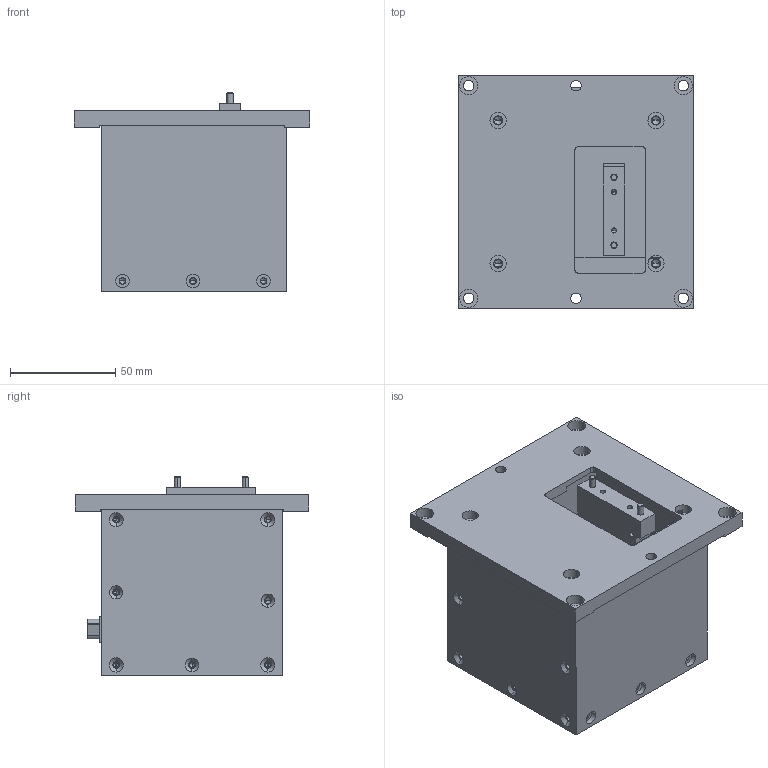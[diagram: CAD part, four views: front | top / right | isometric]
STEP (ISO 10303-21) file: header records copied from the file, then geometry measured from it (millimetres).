
FILE_DESCRIPTION((''),'2;1');
FILE_NAME('LXY15-015-7_B.stp','2005-08-26T14:45:28',(''),(''),'Mechanical Desktop 2005','Mechanical Desktop 2005',', , ');
FILE_SCHEMA(('CONFIG_CONTROL_DESIGN'));
Length unit declared in the file: millimetre
Products named in the file (2): LXY15-015-7_B; PART1
Assembly tree (1 placements, depth 2):
  LXY15-015-7_B
    PART1
Bounding box: 112 x 111 x 94.5 mm (x, y, z)
Volume: 327228.2 mm3; surface area: 103364.3 mm2
Topology: 1 solids, 7 shells, 682 faces, 1706 edges, 1061 vertices
Faces by surface type: cylinder 358, plane 212, cone 112
Entity records: 20529 total; most frequent: DIRECTION 3776, CARTESIAN_POINT 3649, ORIENTED_EDGE 3272, EDGE_CURVE 1636, AXIS2_PLACEMENT_3D 1472, VERTEX_POINT 1061, EDGE_LOOP 855, VECTOR 832
